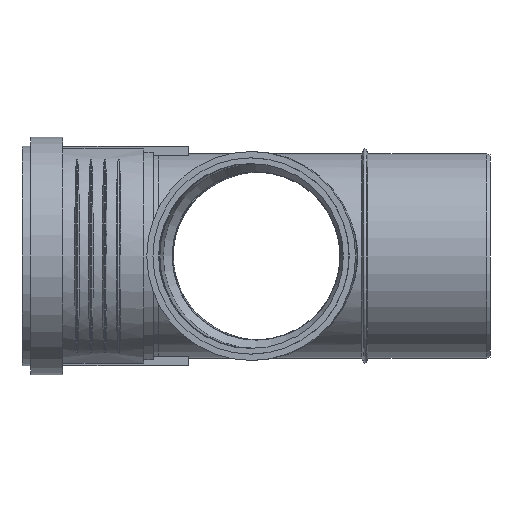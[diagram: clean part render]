
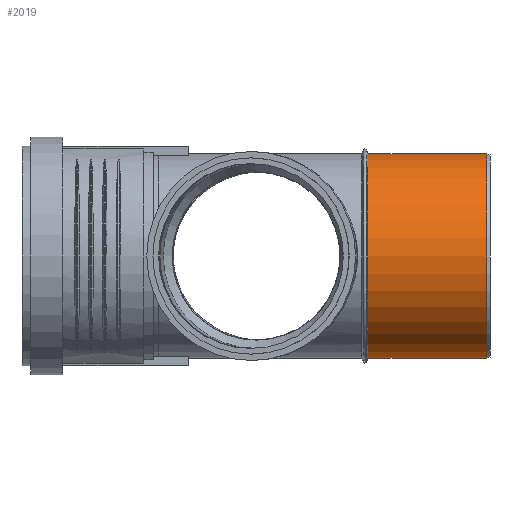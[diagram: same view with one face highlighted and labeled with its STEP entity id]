
A CAD part, left-side view. The second image highlights one B-rep face of the part: STEP entity #2019.
In plain terms, the highlighted cylindrical face has radius 62.6 mm (diameter 125.2 mm), a full revolution.
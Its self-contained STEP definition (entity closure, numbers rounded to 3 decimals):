
#364=CYLINDRICAL_SURFACE($,#2153,62.6);
#398=FACE_BOUND($,#590,.T.);
#480=FACE_OUTER_BOUND($,#589,.T.);
#589=EDGE_LOOP($,(#1350));
#590=EDGE_LOOP($,(#1351));
#777=CIRCLE($,#2151,62.6);
#779=CIRCLE($,#2154,62.6);
#874=VERTEX_POINT($,#2913);
#876=VERTEX_POINT($,#2918);
#1079=EDGE_CURVE($,#874,#874,#777,.T.);
#1081=EDGE_CURVE($,#876,#876,#779,.T.);
#1350=ORIENTED_EDGE($,*,*,#1081,.T.);
#1351=ORIENTED_EDGE($,*,*,#1079,.F.);
#2019=ADVANCED_FACE($,(#480,#398),#364,.T.);
#2151=AXIS2_PLACEMENT_3D($,#2914,#2383,#2384);
#2153=AXIS2_PLACEMENT_3D($,#2917,#2387,#2388);
#2154=AXIS2_PLACEMENT_3D($,#2919,#2389,#2390);
#2383=DIRECTION('center_axis',(0.,-1.,0.));
#2384=DIRECTION('ref_axis',(1.,0.,0.));
#2387=DIRECTION('center_axis',(0.,1.,0.));
#2388=DIRECTION('ref_axis',(1.,0.,0.));
#2389=DIRECTION('center_axis',(0.,-1.,0.));
#2390=DIRECTION('ref_axis',(1.,0.,0.));
#2913=CARTESIAN_POINT('',(-62.6,2.,0.));
#2914=CARTESIAN_POINT('Origin',(0.,2.,0.));
#2917=CARTESIAN_POINT('Origin',(0.,0.,0.));
#2918=CARTESIAN_POINT('',(-62.6,74.9,0.));
#2919=CARTESIAN_POINT('Origin',(0.,74.9,0.));
